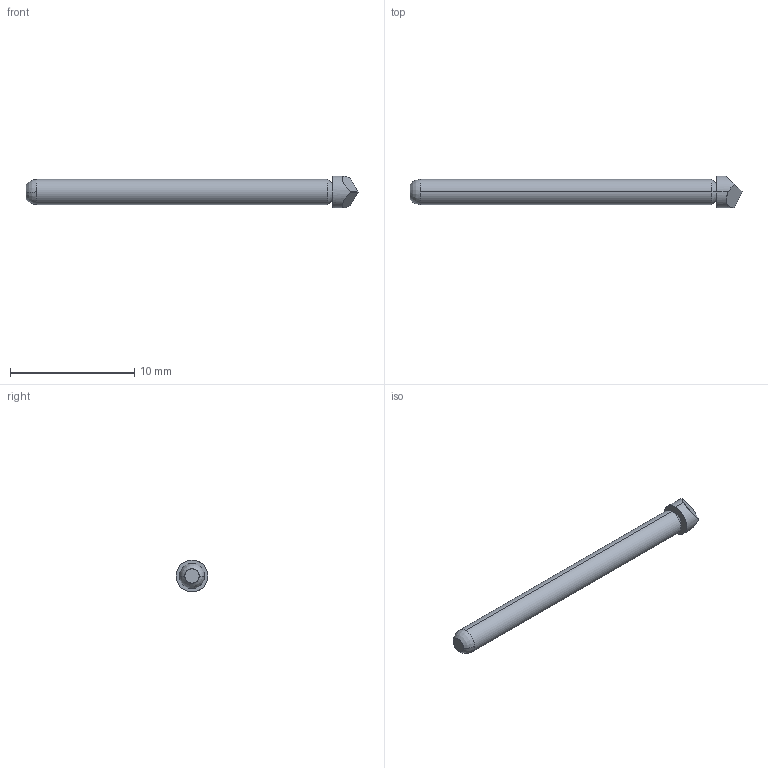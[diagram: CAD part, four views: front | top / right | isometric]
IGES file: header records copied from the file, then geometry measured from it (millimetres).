
Start section: SolidWorks IGES file using analytic representation for surfaces
Global section: file name: C:\Documents and Settings\mrumschlag\Desktop\changes\new\test\EPA-3T Full.IGS; native system: SolidWorks 2008; preprocessor: SolidWorks 2008; author: mrumschlag; date: 110414.162813; units: inch
Bounding box: 26.67 x 2.54 x 2.54 mm (x, y, z)
Surface area: 177.5 mm2 (no closed solid volume)
Topology: 0 solids, 0 shells, 13 faces, 152 edges, 152 vertices
Faces by surface type: revolution 8, bspline 5
